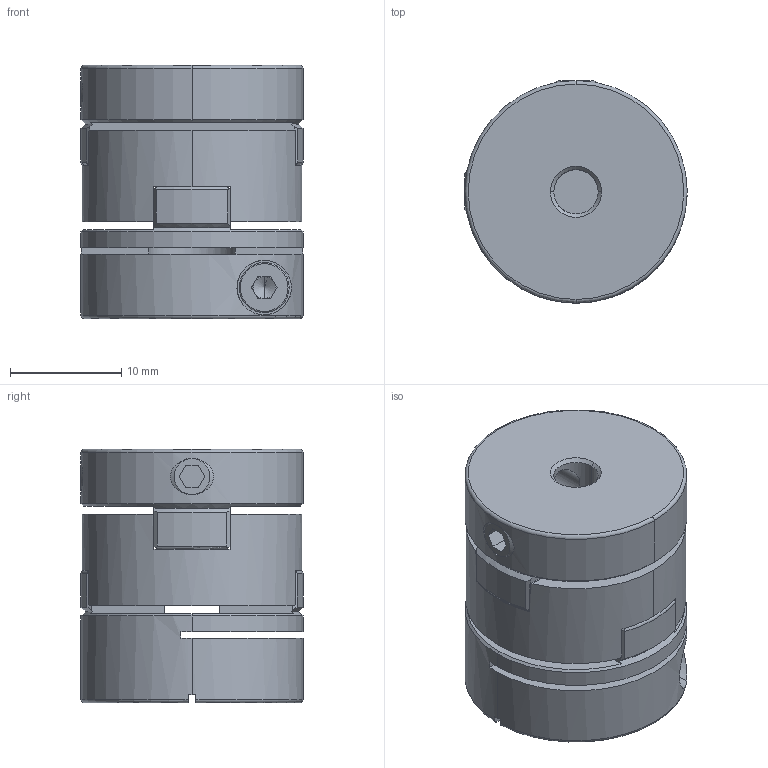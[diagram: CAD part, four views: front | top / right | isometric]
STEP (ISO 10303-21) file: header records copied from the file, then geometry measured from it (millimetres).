
FILE_DESCRIPTION (( 'STEP AP203' ), '1' );
FILE_NAME ('SOH-20SC-4X8_203.STEP', '2013-01-20T06:21:00', ( '' ), ( '' ), 'SwSTEP 2.0', 'SolidWorks 2012', '' );
FILE_SCHEMA (( 'CONFIG_CONTROL_DESIGN' ));
Length unit declared in the file: millimetre
Products named in the file (1): SOH-20SC-4X8_203
Bounding box: 20 x 20 x 22.8 mm (x, y, z)
Volume: 5683 mm3; surface area: 4038.1 mm2
Topology: 1 solids, 1 shells, 181 faces, 509 edges, 320 vertices
Faces by surface type: plane 83, cylinder 56, cone 22, torus 16, sphere 4
Entity records: 6321 total; most frequent: CARTESIAN_POINT 1609, ORIENTED_EDGE 1014, DIRECTION 937, EDGE_CURVE 507, AXIS2_PLACEMENT_3D 342, VERTEX_POINT 320, LINE 253, VECTOR 253
